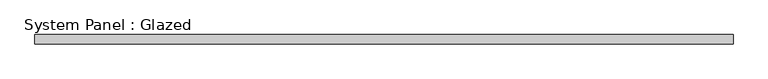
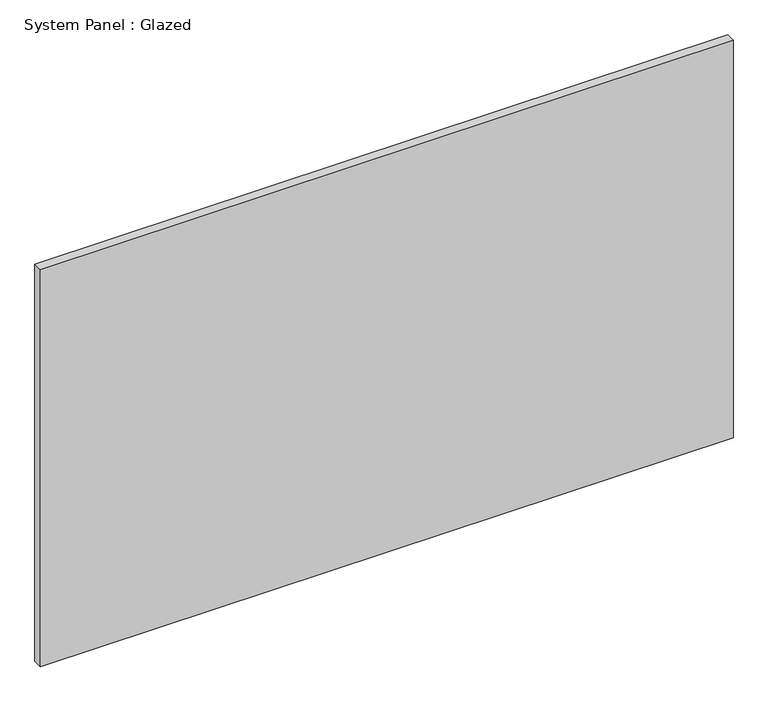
"""IFC4 building model written with IfcOpenShell, lengths in millimetres: plate geometry, System Panel : Glazed."""

from ifc_helpers import new_model, si_unit, origin, origin_with_axes, place, context, project, spatial, polyline, outline, extrude, source, transform, mapped, element, save


def system_panel_glazed_16bdbcd7(model_context):
    return source(origin(), model_context, "Body", "SweptSolid", [
        extrude(outline(polyline([(927.1, -44.45), (-927.1, -44.45), (-927.1, -19.05), (927.1, -19.05), (927.1, -44.45)])), origin_with_axes(), (0.0, 0.0, 1.0), 1123.95),
    ])


if __name__ == "__main__":
    model = new_model("IFC4")
    model_context = context("Model", 3, world=origin())
    ifc_project = project(units=[si_unit("LENGTHUNIT", "METRE", prefix="MILLI")], contexts=[model_context])
    site = spatial("IfcSite", under=ifc_project)
    building = spatial("IfcBuilding", under=site)
    placement = place(None, origin())
    system_panel_glazed_shape = system_panel_glazed_16bdbcd7(model_context)
    element("IfcPlate", 1, ObjectType="System Panel : Glazed", at=placement, inside=building, context=model_context, shape_type="MappedRepresentation", body=[
        mapped(system_panel_glazed_shape, transform((0.0, 0.0, 0.0), x_axis=(1.0, 0.0, 0.0), y_axis=(0.0, 1.0, 0.0), z_axis=(0.0, 0.0, 1.0))),
    ])
    save(model, "model.ifc")
